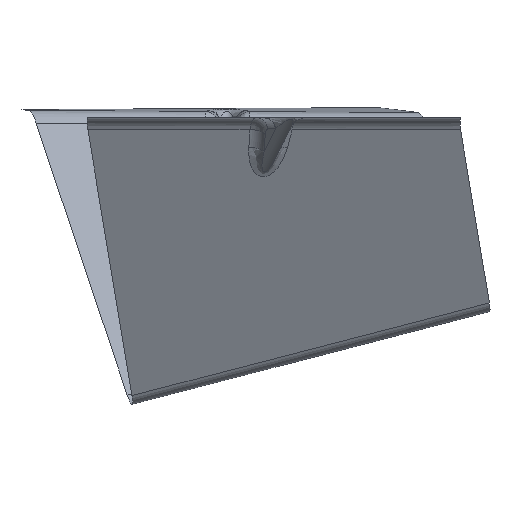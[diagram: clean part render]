
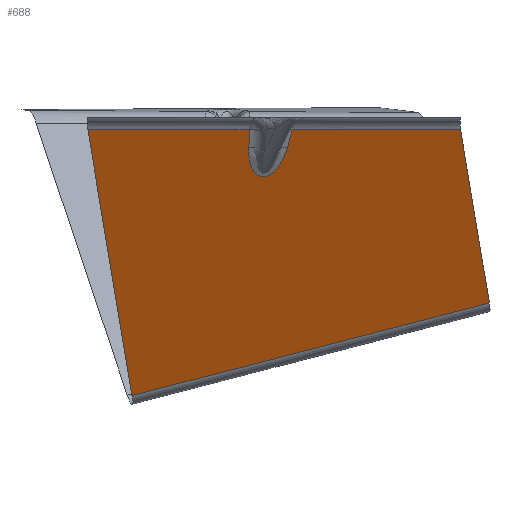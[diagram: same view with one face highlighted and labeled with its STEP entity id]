
A CAD part, left-side view. The second image highlights one B-rep face of the part: STEP entity #688.
In plain terms, the highlighted planar face has unit normal (-0.83, -0.249, -0.5).
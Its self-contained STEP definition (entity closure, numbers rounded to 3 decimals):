
#254=CARTESIAN_POINT('Vertex',(-79.152,6.408,-1.75)) ;
#277=CARTESIAN_POINT('Line Origine',(-63.807,8.21,-28.106)) ;
#281=CARTESIAN_POINT('Vertex',(-76.422,6.728,-6.44)) ;
#570=CARTESIAN_POINT('Control Point',(-73.309,-3.648,-6.44)) ;
#571=CARTESIAN_POINT('Control Point',(-73.117,-3.551,-6.807)) ;
#572=CARTESIAN_POINT('Control Point',(-72.928,-3.444,-7.174)) ;
#573=CARTESIAN_POINT('Control Point',(-72.742,-3.327,-7.54)) ;
#574=CARTESIAN_POINT('Control Point',(-72.384,-3.074,-8.26)) ;
#575=CARTESIAN_POINT('Control Point',(-72.042,-2.778,-8.975)) ;
#576=CARTESIAN_POINT('Control Point',(-71.878,-2.62,-9.326)) ;
#577=CARTESIAN_POINT('Control Point',(-71.575,-2.297,-9.988)) ;
#578=CARTESIAN_POINT('Control Point',(-71.293,-1.926,-10.641)) ;
#579=CARTESIAN_POINT('Control Point',(-71.164,-1.738,-10.949)) ;
#580=CARTESIAN_POINT('Control Point',(-70.937,-1.366,-11.511)) ;
#581=CARTESIAN_POINT('Control Point',(-70.735,-0.941,-12.057)) ;
#582=CARTESIAN_POINT('Control Point',(-70.649,-0.734,-12.303)) ;
#583=CARTESIAN_POINT('Control Point',(-70.507,-0.337,-12.736)) ;
#584=CARTESIAN_POINT('Control Point',(-70.396,0.113,-13.144)) ;
#585=CARTESIAN_POINT('Control Point',(-70.354,0.325,-13.319)) ;
#586=CARTESIAN_POINT('Control Point',(-70.297,0.721,-13.612)) ;
#587=CARTESIAN_POINT('Control Point',(-70.276,1.164,-13.867)) ;
#588=CARTESIAN_POINT('Control Point',(-70.275,1.365,-13.968)) ;
#589=CARTESIAN_POINT('Control Point',(-70.291,1.737,-14.126)) ;
#590=CARTESIAN_POINT('Control Point',(-70.345,2.134,-14.235)) ;
#591=CARTESIAN_POINT('Control Point',(-70.375,2.31,-14.272)) ;
#592=CARTESIAN_POINT('Control Point',(-70.447,2.636,-14.316)) ;
#593=CARTESIAN_POINT('Control Point',(-70.544,2.96,-14.316)) ;
#594=CARTESIAN_POINT('Control Point',(-70.593,3.104,-14.306)) ;
#595=CARTESIAN_POINT('Control Point',(-70.695,3.374,-14.271)) ;
#596=CARTESIAN_POINT('Control Point',(-70.811,3.629,-14.206)) ;
#597=CARTESIAN_POINT('Control Point',(-70.868,3.746,-14.169)) ;
#598=CARTESIAN_POINT('Control Point',(-71.145,4.271,-13.97)) ;
#599=CARTESIAN_POINT('Control Point',(-71.455,4.698,-13.67)) ;
#600=CARTESIAN_POINT('Control Point',(-71.701,4.98,-13.401)) ;
#601=CARTESIAN_POINT('Control Point',(-72.117,5.391,-12.916)) ;
#602=CARTESIAN_POINT('Control Point',(-72.528,5.709,-12.392)) ;
#603=CARTESIAN_POINT('Control Point',(-72.697,5.828,-12.17)) ;
#604=CARTESIAN_POINT('Control Point',(-73.082,6.072,-11.654)) ;
#605=CARTESIAN_POINT('Control Point',(-73.459,6.261,-11.121)) ;
#606=CARTESIAN_POINT('Control Point',(-73.67,6.352,-10.819)) ;
#607=CARTESIAN_POINT('Control Point',(-74.138,6.53,-10.129)) ;
#608=CARTESIAN_POINT('Control Point',(-74.596,6.646,-9.428)) ;
#609=CARTESIAN_POINT('Control Point',(-74.847,6.695,-9.035)) ;
#610=CARTESIAN_POINT('Control Point',(-75.32,6.759,-8.283)) ;
#611=CARTESIAN_POINT('Control Point',(-75.781,6.772,-7.525)) ;
#612=CARTESIAN_POINT('Control Point',(-75.997,6.768,-7.164)) ;
#613=CARTESIAN_POINT('Control Point',(-76.211,6.753,-6.802)) ;
#614=CARTESIAN_POINT('Control Point',(-76.422,6.728,-6.44)) ;
#615=CARTESIAN_POINT('Vertex',(-73.309,-3.648,-6.44)) ;
#633=CARTESIAN_POINT('Axis2P3D Location',(-35.581,-10.674,-65.533)) ;
#638=CARTESIAN_POINT('Line Origine',(-74.537,-4.265,-4.095)) ;
#642=CARTESIAN_POINT('Vertex',(-75.765,-4.883,-1.75)) ;
#645=CARTESIAN_POINT('Line Origine',(-85.677,28.157,-1.75)) ;
#649=CARTESIAN_POINT('Vertex',(-92.202,49.907,-1.75)) ;
#652=CARTESIAN_POINT('Line Origine',(-68.943,43.994,-37.394)) ;
#656=CARTESIAN_POINT('Vertex',(-45.684,38.08,-73.038)) ;
#659=CARTESIAN_POINT('Line Origine',(-38.803,-9.855,-60.595)) ;
#663=CARTESIAN_POINT('Vertex',(-31.923,-57.791,-48.153)) ;
#666=CARTESIAN_POINT('Line Origine',(-47.062,-53.942,-24.951)) ;
#670=CARTESIAN_POINT('Vertex',(-62.202,-50.093,-1.75)) ;
#673=CARTESIAN_POINT('Line Origine',(-68.984,-27.488,-1.75)) ;
#278=DIRECTION('Vector Direction',(0.502,0.059,-0.863)) ;
#634=DIRECTION('Axis2P3D Direction',(0.83,0.249,0.5)) ;
#635=DIRECTION('Axis2P3D XDirection',(0.541,-0.138,-0.83)) ;
#639=DIRECTION('Vector Direction',(-0.452,-0.227,0.863)) ;
#646=DIRECTION('Vector Direction',(0.287,-0.958,0.)) ;
#653=DIRECTION('Vector Direction',(0.541,-0.138,-0.83)) ;
#660=DIRECTION('Vector Direction',(0.138,-0.959,0.249)) ;
#667=DIRECTION('Vector Direction',(-0.541,0.138,0.83)) ;
#674=DIRECTION('Vector Direction',(0.287,-0.958,0.)) ;
#636=AXIS2_PLACEMENT_3D('Plane Axis2P3D',#633,#634,#635) ;
#679=ORIENTED_EDGE('',*,*,#644,.T.) ;
#680=ORIENTED_EDGE('',*,*,#617,.T.) ;
#681=ORIENTED_EDGE('',*,*,#283,.T.) ;
#682=ORIENTED_EDGE('',*,*,#651,.F.) ;
#683=ORIENTED_EDGE('',*,*,#658,.T.) ;
#684=ORIENTED_EDGE('',*,*,#665,.T.) ;
#685=ORIENTED_EDGE('',*,*,#672,.T.) ;
#686=ORIENTED_EDGE('',*,*,#677,.F.) ;
#279=VECTOR('Line Direction',#278,1.) ;
#640=VECTOR('Line Direction',#639,1.) ;
#647=VECTOR('Line Direction',#646,1.) ;
#654=VECTOR('Line Direction',#653,1.) ;
#661=VECTOR('Line Direction',#660,1.) ;
#668=VECTOR('Line Direction',#667,1.) ;
#675=VECTOR('Line Direction',#674,1.) ;
#688=ADVANCED_FACE('Extract.1',(#687),#637,.F.) ;
#569=B_SPLINE_CURVE_WITH_KNOTS('',5,(#570,#571,#572,#573,#574,#575,#576,#577,#578,#579,#580,#581,#582,#583,#584,#585,#586,#587,#588,#589,#590,#591,#592,#593,#594,#595,#596,#597,#598,#599,#600,#601,#602,#603,#604,#605,#606,#607,#608,#609,#610,#611,#612,#613,#614),.UNSPECIFIED.,.F.,.U.,(6,3,3,3,3,3,3,3,3,3,3,3,3,3,6),(19.463,22.306,25.06,27.547,29.658,31.341,32.62,33.601,34.411,35.154,37.857,39.772,42.238,45.328,48.131),.UNSPECIFIED.) ;
#283=EDGE_CURVE('',#282,#255,#280,.F.) ;
#617=EDGE_CURVE('',#616,#282,#569,.T.) ;
#644=EDGE_CURVE('',#643,#616,#641,.F.) ;
#651=EDGE_CURVE('',#650,#255,#648,.T.) ;
#658=EDGE_CURVE('',#650,#657,#655,.T.) ;
#665=EDGE_CURVE('',#657,#664,#662,.T.) ;
#672=EDGE_CURVE('',#664,#671,#669,.T.) ;
#677=EDGE_CURVE('',#643,#671,#676,.T.) ;
#678=EDGE_LOOP('',(#679,#680,#681,#682,#683,#684,#685,#686)) ;
#687=FACE_OUTER_BOUND('',#678,.T.) ;
#280=LINE('Line',#277,#279) ;
#641=LINE('Line',#638,#640) ;
#648=LINE('Line',#645,#647) ;
#655=LINE('Line',#652,#654) ;
#662=LINE('Line',#659,#661) ;
#669=LINE('Line',#666,#668) ;
#676=LINE('Line',#673,#675) ;
#637=PLANE('',#636) ;
#255=VERTEX_POINT('',#254) ;
#282=VERTEX_POINT('',#281) ;
#616=VERTEX_POINT('',#615) ;
#643=VERTEX_POINT('',#642) ;
#650=VERTEX_POINT('',#649) ;
#657=VERTEX_POINT('',#656) ;
#664=VERTEX_POINT('',#663) ;
#671=VERTEX_POINT('',#670) ;
